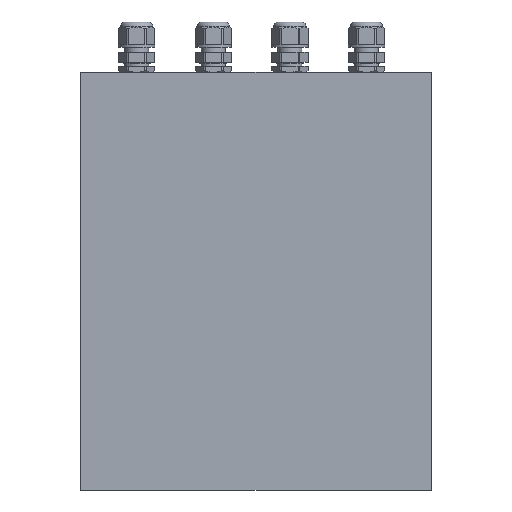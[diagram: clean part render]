
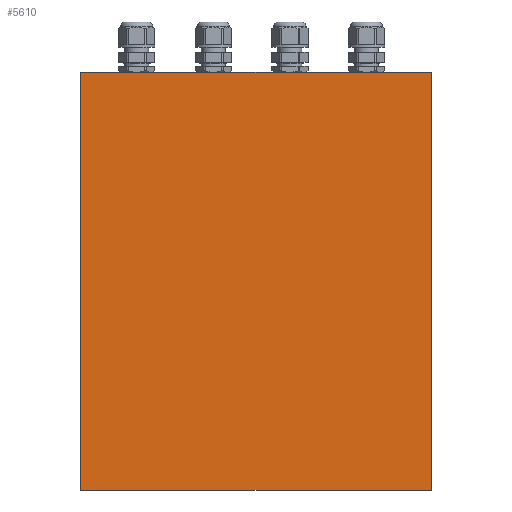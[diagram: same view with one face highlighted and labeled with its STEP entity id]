
A CAD part, front view. The second image highlights one B-rep face of the part: STEP entity #5610.
In plain terms, the highlighted planar face has unit normal (0, -1, 0).
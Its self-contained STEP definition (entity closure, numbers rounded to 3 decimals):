
#9=DIRECTION('',(1.,0.,0.));
#10=VECTOR('',#9,183.);
#11=CARTESIAN_POINT('',(-91.5,-63.,0.));
#12=LINE('',#11,#10);
#36=DIRECTION('',(0.,0.,1.));
#37=VECTOR('',#36,218.);
#38=CARTESIAN_POINT('',(91.5,-63.,0.));
#39=LINE('',#38,#37);
#56=DIRECTION('',(0.,0.,1.));
#57=VECTOR('',#56,218.);
#58=CARTESIAN_POINT('',(-91.5,-63.,0.));
#59=LINE('',#58,#57);
#1534=DIRECTION('',(1.,0.,0.));
#1535=VECTOR('',#1534,183.);
#1536=CARTESIAN_POINT('',(-91.5,-63.,218.));
#1537=LINE('',#1536,#1535);
#4173=CARTESIAN_POINT('',(-91.5,-63.,0.));
#4174=CARTESIAN_POINT('',(91.5,-63.,0.));
#4175=VERTEX_POINT('',#4173);
#4176=VERTEX_POINT('',#4174);
#4177=CARTESIAN_POINT('',(-91.5,-63.,218.));
#4178=CARTESIAN_POINT('',(91.5,-63.,218.));
#4179=VERTEX_POINT('',#4177);
#4180=VERTEX_POINT('',#4178);
#5597=CARTESIAN_POINT('',(-91.5,-63.,0.));
#5598=DIRECTION('',(0.,-1.,0.));
#5599=DIRECTION('',(1.,0.,0.));
#5600=AXIS2_PLACEMENT_3D('',#5597,#5598,#5599);
#5601=PLANE('',#5600);
#5602=ORIENTED_EDGE('',*,*,#5538,.F.);
#5604=ORIENTED_EDGE('',*,*,#5603,.T.);
#5606=ORIENTED_EDGE('',*,*,#5605,.T.);
#5607=ORIENTED_EDGE('',*,*,#5582,.F.);
#5608=EDGE_LOOP('',(#5602,#5604,#5606,#5607));
#5609=FACE_OUTER_BOUND('',#5608,.F.);
#5610=ADVANCED_FACE('',(#5609),#5601,.T.);
#5538=EDGE_CURVE('',#4175,#4176,#12,.T.);
#5582=EDGE_CURVE('',#4176,#4180,#39,.T.);
#5603=EDGE_CURVE('',#4175,#4179,#59,.T.);
#5605=EDGE_CURVE('',#4179,#4180,#1537,.T.);
